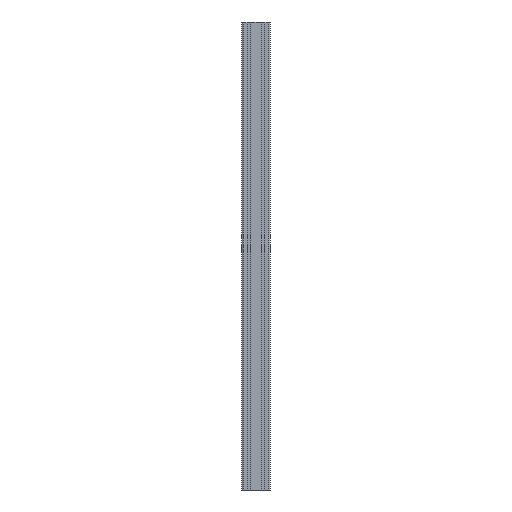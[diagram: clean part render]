
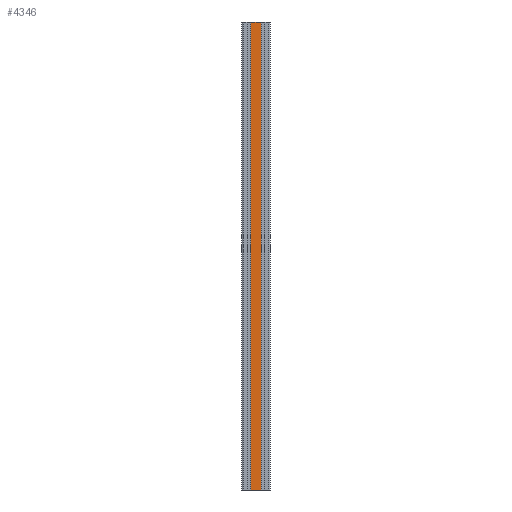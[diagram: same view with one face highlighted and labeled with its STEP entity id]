
A CAD part, left-side view. The second image highlights one B-rep face of the part: STEP entity #4346.
In plain terms, the highlighted planar face has unit normal (-1, 0, 0).
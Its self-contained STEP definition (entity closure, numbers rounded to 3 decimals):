
#221 = LINE ( 'NONE', #5734, #3147 ) ;
#347 = LINE ( 'NONE', #5925, #1665 ) ;
#505 = ORIENTED_EDGE ( 'NONE', *, *, #4051, .T. ) ;
#512 = EDGE_CURVE ( 'NONE', #4710, #1251, #2524, .T. ) ;
#1070 = DIRECTION ( 'NONE',  ( 0., 0., -1. ) ) ;
#1104 = DIRECTION ( 'NONE',  ( 0., 0., -1. ) ) ;
#1114 = VECTOR ( 'NONE', #2161, 1000. ) ;
#1142 = CARTESIAN_POINT ( 'NONE',  ( -30., -10.8, -500. ) ) ;
#1154 = DIRECTION ( 'NONE',  ( 0., 0., -1. ) ) ;
#1251 = VERTEX_POINT ( 'NONE', #1142 ) ;
#1665 = VECTOR ( 'NONE', #1070, 1000. ) ;
#1686 = DIRECTION ( 'NONE',  ( 1., 0., 0. ) ) ;
#1805 = CARTESIAN_POINT ( 'NONE',  ( -30., -10.8, 500. ) ) ;
#1910 = VERTEX_POINT ( 'NONE', #1805 ) ;
#2161 = DIRECTION ( 'NONE',  ( 0., -1., 0. ) ) ;
#2524 = LINE ( 'NONE', #3105, #1114 ) ;
#2751 = EDGE_CURVE ( 'NONE', #6091, #1910, #221, .T. ) ;
#3105 = CARTESIAN_POINT ( 'NONE',  ( -30., 10.8, -500. ) ) ;
#3147 = VECTOR ( 'NONE', #5249, 1000. ) ;
#3446 = CARTESIAN_POINT ( 'NONE',  ( -30., 10.8, 500. ) ) ;
#3644 = CARTESIAN_POINT ( 'NONE',  ( -30., 10.8, 500. ) ) ;
#4051 = EDGE_CURVE ( 'NONE', #6091, #4710, #5650, .T. ) ;
#4324 = ORIENTED_EDGE ( 'NONE', *, *, #2751, .F. ) ;
#4346 = ADVANCED_FACE ( 'NONE', ( #6029 ), #5573, .F. ) ;
#4524 = CARTESIAN_POINT ( 'NONE',  ( -30., 10.8, -500. ) ) ;
#4639 = CARTESIAN_POINT ( 'NONE',  ( -30., 10.8, 500. ) ) ;
#4690 = ORIENTED_EDGE ( 'NONE', *, *, #512, .T. ) ;
#4710 = VERTEX_POINT ( 'NONE', #4524 ) ;
#5172 = EDGE_LOOP ( 'NONE', ( #4690, #5397, #4324, #505 ) ) ;
#5249 = DIRECTION ( 'NONE',  ( 0., -1., 0. ) ) ;
#5301 = VECTOR ( 'NONE', #1154, 1000. ) ;
#5397 = ORIENTED_EDGE ( 'NONE', *, *, #5990, .F. ) ;
#5573 = PLANE ( 'NONE',  #6417 ) ;
#5650 = LINE ( 'NONE', #4639, #5301 ) ;
#5734 = CARTESIAN_POINT ( 'NONE',  ( -30., 10.8, 500. ) ) ;
#5925 = CARTESIAN_POINT ( 'NONE',  ( -30., -10.8, 500. ) ) ;
#5990 = EDGE_CURVE ( 'NONE', #1910, #1251, #347, .T. ) ;
#6029 = FACE_OUTER_BOUND ( 'NONE', #5172, .T. ) ;
#6091 = VERTEX_POINT ( 'NONE', #3446 ) ;
#6417 = AXIS2_PLACEMENT_3D ( 'NONE', #3644, #1686, #1104 ) ;
